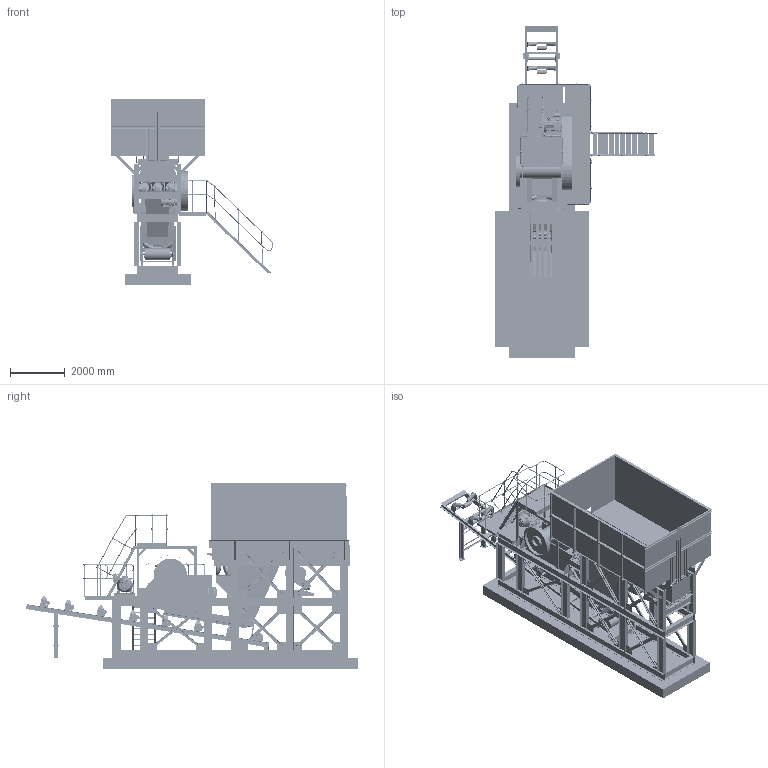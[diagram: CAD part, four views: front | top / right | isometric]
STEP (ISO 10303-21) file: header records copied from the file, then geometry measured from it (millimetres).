
FILE_DESCRIPTION(/* description */ (''),/* implementation_level */ '2;1');
FILE_NAME(/* name */ 'beltconveyor_a057_w950_l9000.stp',/* time_stamp */ '2024-12-23T23:30:42+08:00',/* author */ (''),/* organization */ (''),/* preprocessor_version */ 'ST-DEVELOPER v16.7',/* originating_system */ 'SIEMENS PLM Software NX 12.0',/* authorisation */ '');
FILE_SCHEMA (('AUTOMOTIVE_DESIGN { 1 0 10303 214 3 1 1 1 }'));
Products named in the file (265): 180L_LEFT_TOP_25; 180L_LEFT_TOP_15; 180L_LEFT_TOP_3; 180L_LEFT_TOP_49; 180L_LEFT_TOP_47; 180L_LEFT_TOP_1; 180L_LEFT_TOP_13; 180L_LEFT_TOP_43; 180L_LEFT_TOP_33; 180L_LEFT_TOP_17; 180L_LEFT_TOP_19; 180L_LEFT_TOP229236; 180L_LEFT_TOP_39; 180L_LEFT_TOP_21; 180L_LEFT_TOP_51; 180L_LEFT_TOP_31; 180L_LEFT_TOP_29; 180L_LEFT_TOP_7; 180L_LEFT_TOP_45; 180L_LEFT_TOP_27; 180L_LEFT_TOP_55; 180L_LEFT_TOP_5; 180L_LEFT_TOP_11; 180L_LEFT_TOP_59; 180L_LEFT_TOP_57; 180L_LEFT_TOP_35; 180L_LEFT_TOP_41; 180L_LEFT_TOP_53; 180L_LEFT_TOP_23; 180L_LEFT_TOP_37; 180L_LEFT_TOP_9; PFC 100 x 50 x 11 x 3249mm; PFC 100 x 50 x 11 x 3249mm_mir; hrt 409278; Stanchion 45 Degree_mir; PFC 100 x 50 x 11 x 51.1mm; PFC 100 x 50 x 11 x 51.1mm_mir; Stanchion 45 Degree; BJF Stair Tread; VGF Motor Base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
Assembly tree (503 placements, depth 6):
  beltconveyor_a057_w950_l9000
    Jaw Flywheel Guard
    BJF Conveyor
      Jaw Conveyor Trestle
        EA 50 x 50 x 1214mm  x4
        PFC 180 x 70 x 1632mm_mir
        Plate 166 x 63 x 10mm  x2
        Plate 200 x 200 x 10mm  x2
        PFC 180 x 70 x 1632mm
      Jaw Conveyor Chute
        Chute Plate 3110 x 80 x 5mm  x2
        EA 50 x 50 x 745mm  x6
        Jaw Conv Chute Plate LHS
        Chute Plate
        Jaw Conv Chute Plate LHS_mir
        Chute plate 255 x 240 x 5mm  x2
        Chute Plate 734 x 80 x 5mm
      Jaw Conv 9m Stringer
        PFC 180 x 70 x 1074mm  x4
        900mm Conveyor Idler Roller Asm  x4
          Idler Roller Bracket
          900 mm Conv Return Idler Roller 127mm
          Idler Roller Bracket_mir3
        900mm Stringer 150mm Roller Asm  x7
          Inner Roller Bracket
          Inside Inner Bracket
          Inner Roller Bracket_mir4
          Plate 100 x 8 x 938mm
          150mm Roller
          Roller Bracket_mir14
          Roller Bracket_mir1
        Plummer Block 75mm  x2
        Tail Roller 900mm Stringer
        PFC 180 x 70 x 9000mm  x2
      Jaw Conv 9m Stringer Base
        PFC 180 x 70 x 118mm
        IPF 305 x 165 x 41 x 1545mm
        PFC 180 x 70 x 118mm_mir1
    Bin Jaw Crusher and Feeder
      VGF Chute
      VGF 42x16x8
        VGF Motor Guard
        VGF Plate 480 x 250 x 12mm  x4
        VGF Plate 610 x 1068 x 10mm  x4
        VGF Plate 762 x 1068 x 10mm
        VGF Spring  x2
        VGF Motor and Base
          180L_LEFT_TOP
            180L_LEFT_TOP_9
            180L_LEFT_TOP_37
            180L_LEFT_TOP_23
            180L_LEFT_TOP_53
            180L_LEFT_TOP_41
            180L_LEFT_TOP_35
            180L_LEFT_TOP_57
            180L_LEFT_TOP_59
            180L_LEFT_TOP_11
            180L_LEFT_TOP_5
            180L_LEFT_TOP_55
            180L_LEFT_TOP_27
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Bounding box: 5939.4 x 12156.54 x 6824.6 mm (x, y, z)
Volume: 13261328342.3 mm3; surface area: 535647498.9 mm2
Topology: 632 solids, 655 shells, 13184 faces, 34069 edges, 22241 vertices
Faces by surface type: plane 7274, cylinder 2428, cone 1339, extrusion 984, bspline 629, torus 282, sphere 248
Entity records: 333601 total; most frequent: CARTESIAN_POINT 127063, ORIENTED_EDGE 43590, DIRECTION 38437, EDGE_CURVE 21795, VERTEX_POINT 14265, AXIS2_PLACEMENT_3D 13454, VECTOR 11529, LINE 11037
